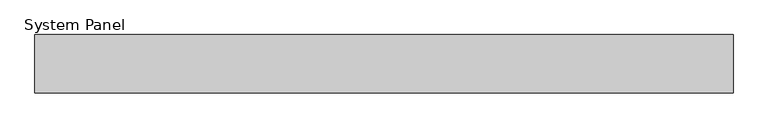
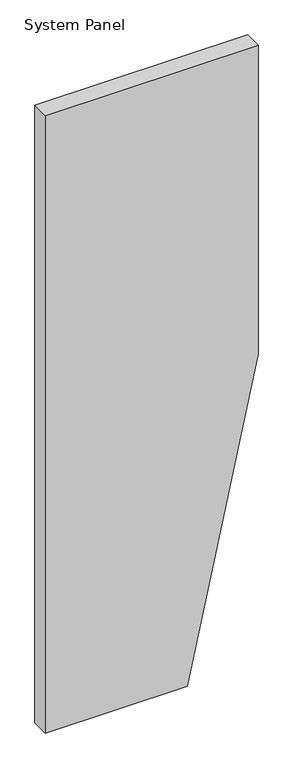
"""IFC4 building model written with IfcOpenShell, lengths in millimetres: plate geometry, System Panel : Equitilt 100mm Vertical - Plain RHEA - MW."""

from ifc_helpers import new_model, si_unit, frame, origin, place, context, project, spatial, polyline, outline, extrude, source, transform, mapped, element, save


def system_panel_0e282976(model_context):
    return source(origin(), model_context, "Body", "SweptSolid", [
        extrude(outline(polyline([(0.0, -600.0), (0.0, 200.0), (1839.9852118, 600.0), (3679.9704237, 600.0), (3679.9704237, -600.0), (0.0, -600.0)])), frame((0.0, -100.0, 0.0), z_axis=(0.0, 1.0, 0.0), x_axis=(0.0, 0.0, 1.0)), (0.0, 0.0, 1.0), 100.0),
    ])


if __name__ == "__main__":
    model = new_model("IFC4")
    model_context = context("Model", 3, world=origin())
    ifc_project = project(units=[si_unit("LENGTHUNIT", "METRE", prefix="MILLI")], contexts=[model_context])
    site = spatial("IfcSite", under=ifc_project)
    building = spatial("IfcBuilding", under=site)
    placement = place(None, origin())
    system_panel_shape = system_panel_0e282976(model_context)
    element("IfcPlate", 1, ObjectType="System Panel : Equitilt 100mm Vertical - Plain RHEA - MW", at=placement, inside=building, context=model_context, shape_type="MappedRepresentation", body=[
        mapped(system_panel_shape, transform((0.0, 0.0, 0.0), x_axis=(1.0, 0.0, 0.0), y_axis=(0.0, 1.0, 0.0), z_axis=(0.0, 0.0, 1.0))),
    ])
    save(model, "model.ifc")
